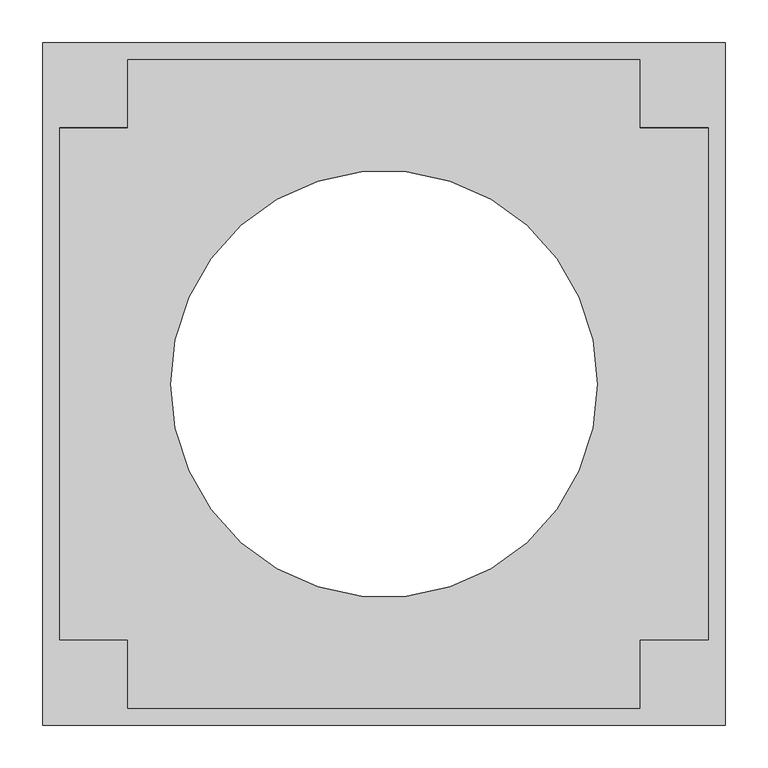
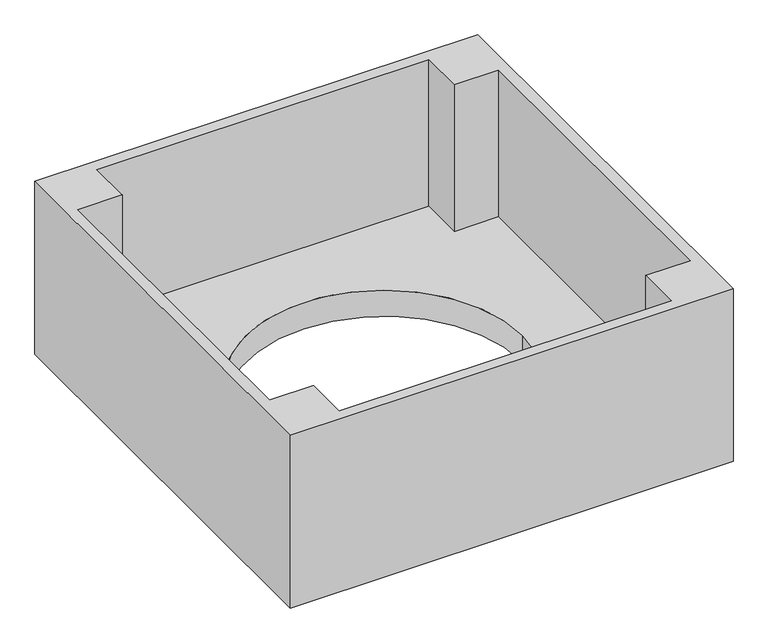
"""IFC4 building model written with IfcOpenShell, lengths in millimetres: proxy geometry, RSK C3 Box : RSK C3 8.3."""

import ifcopenshell
import ifcopenshell.guid

model = None  # the IFC model being written
_history = None  # IfcOwnerHistory: only IFC2X3 demands one
_inside = {}  # id of a spatial element -> (the spatial element, [elements in it])
_under = {}  # id of a project, library or spatial element -> (it, [spatial elements below it])
_declared = {}  # id of a project -> (the project, [libraries it declares])
_typed = {}  # id of a type object -> (the type object, [elements of that type])
_made_of = {}  # id of a material, layer set ... -> (it, [elements and type objects made of it])


def new_model(schema):
    """Start an empty IFC model of exactly this schema.

    Asked for "IFC4X3", IfcOpenShell would pick the latest addendum, in which some entities
    have other attributes; the version numbers below select the first issue.
    IFC2X3 requires an IfcOwnerHistory on every rooted entity: one is made here for all.
    """
    global model, _history
    if schema == "IFC4X3":
        model = ifcopenshell.file(schema_version=(4, 3, 0, 0))
    else:
        model = ifcopenshell.file(schema=schema)
    _inside.clear()
    _under.clear()
    _declared.clear()
    _typed.clear()
    _made_of.clear()
    _history = None
    if model.schema == "IFC2X3":
        org = make("IfcOrganization", Name="unknown")
        user = make(
            "IfcPersonAndOrganization",
            ThePerson=make("IfcPerson", FamilyName="unknown"),
            TheOrganization=org,
        )
        app = make(
            "IfcApplication",
            ApplicationDeveloper=org,
            Version="unknown",
            ApplicationFullName="unknown",
            ApplicationIdentifier="unknown",
        )
        _history = make(
            "IfcOwnerHistory",
            OwningUser=user,
            OwningApplication=app,
            ChangeAction="ADDED",
            CreationDate=0,
        )
    return model


def make(cls, **values):
    """One entity of the class cls with the attributes given. An attribute that is None is left unset."""
    return model.create_entity(
        cls, **{name: value for name, value in values.items() if value is not None}
    )


def rooted(cls, **values):
    """An entity with a GlobalId (a new one), such as an element, a storey or a relation."""
    return make(cls, GlobalId=ifcopenshell.guid.new(), OwnerHistory=_history, **values)


def si_unit(unit_type, name, prefix=None):
    """IfcSIUnit, for example si_unit("LENGTHUNIT", "METRE", prefix="MILLI")."""
    return make("IfcSIUnit", UnitType=unit_type, Prefix=prefix, Name=name)


def assignment(units):
    """IfcUnitAssignment: the units of a project."""
    return None if units is None else make("IfcUnitAssignment", Units=units)


def point(xyz):
    """IfcCartesianPoint."""
    return None if xyz is None else make("IfcCartesianPoint", Coordinates=xyz)


def direction(xyz):
    """IfcDirection."""
    return None if xyz is None else make("IfcDirection", DirectionRatios=xyz)


def frame(location, z_axis=None, x_axis=None):
    """IfcAxis2Placement3D, a coordinate frame: its origin and axes. An axis left out is left unset."""
    return make(
        "IfcAxis2Placement3D",
        Location=point(location),
        Axis=direction(z_axis),
        RefDirection=direction(x_axis),
    )


def origin():
    """The frame at (0, 0, 0) with its axes left unset."""
    return frame((0.0, 0.0, 0.0))


def place(relative_to, where):
    """IfcLocalPlacement: puts the frame where relative to a parent placement (None: the world)."""
    return make(
        "IfcLocalPlacement", PlacementRelTo=relative_to, RelativePlacement=where
    )


def context(
    kind, dimensions, precision=None, world=None, true_north=None, identifier=None
):
    """IfcGeometricRepresentationContext, for example the 3D "Model" context."""
    return make(
        "IfcGeometricRepresentationContext",
        ContextIdentifier=identifier,
        ContextType=kind,
        CoordinateSpaceDimension=dimensions,
        Precision=precision,
        WorldCoordinateSystem=world,
        TrueNorth=true_north,
    )


def project(units=None, contexts=None):
    """IfcProject with its units and contexts."""
    return rooted(
        "IfcProject",
        Name="project",
        RepresentationContexts=contexts,
        UnitsInContext=assignment(units),
    )


def spatial(cls, under=None, at=None, **own):
    """A site, building, storey or space (cls), placed at a placement, below another one or the project."""
    s = rooted(cls, ObjectPlacement=at, **own)
    if under is not None:
        _under.setdefault(under.id(), (under, []))[1].append(s)
    return s


def polyline(points):
    """IfcPolyline through the points."""
    return make("IfcPolyline", Points=[point(p) for p in points])


def circle_curve(where, radius):
    """IfcCircle in the frame where."""
    return make("IfcCircle", Position=where, Radius=radius)


def shape(context_of_items, identifier, shape_type, items):
    """IfcShapeRepresentation: the items that make up one representation, for example the "Body"."""
    return make(
        "IfcShapeRepresentation",
        ContextOfItems=context_of_items,
        RepresentationIdentifier=identifier,
        RepresentationType=shape_type,
        Items=items,
    )


def source(mapping_origin, context_of_items, identifier, shape_type, items):
    """IfcRepresentationMap: a shape defined once, which mapped items show again and again."""
    return make(
        "IfcRepresentationMap",
        MappingOrigin=mapping_origin,
        MappedRepresentation=shape(context_of_items, identifier, shape_type, items),
    )


def transform(
    local_origin,
    x_axis=None,
    y_axis=None,
    z_axis=None,
    scale=None,
    scale2=None,
    scale3=None,
    uniform=True,
):
    """IfcCartesianTransformationOperator3D, or its non-uniform kind. x_axis, y_axis, z_axis: its Axis1, 2, 3."""
    if uniform:
        return make(
            "IfcCartesianTransformationOperator3D",
            Axis1=direction(x_axis),
            Axis2=direction(y_axis),
            LocalOrigin=point(local_origin),
            Scale=scale,
            Axis3=direction(z_axis),
        )
    return make(
        "IfcCartesianTransformationOperator3DnonUniform",
        Axis1=direction(x_axis),
        Axis2=direction(y_axis),
        LocalOrigin=point(local_origin),
        Scale=scale,
        Axis3=direction(z_axis),
        Scale2=scale2,
        Scale3=scale3,
    )


def mapped(mapping_source, mapping_target):
    """IfcMappedItem: shows the shape of a source again, moved by a transform."""
    return make(
        "IfcMappedItem", MappingSource=mapping_source, MappingTarget=mapping_target
    )


def made_of(thing, what):
    """Note that an element or type object is made of a material, layer set ...; save() writes the relation."""
    if what is not None:
        _made_of.setdefault(what.id(), (what, []))[1].append(thing)
    return thing


def element(
    cls,
    number,
    at=None,
    inside=None,
    cuts=None,
    type_object=None,
    material=None,
    context=None,
    identifier="Body",
    shape_type=None,
    held_by="IfcProductDefinitionShape",
    body=None,
    shapes=None,
    **own,
):
    """One element of the class cls, such as IfcWall. Its Tag is "e" and its number.

    at: its placement. inside: the storey or other place that contains it. cuts: it is an
    opening in that element (IfcRelVoidsElement). A single representation is given by context,
    identifier, shape_type and body (its items); several are given by shapes. held_by: the class
    of the entity that holds the representations. save() writes the other relations.
    """
    e = rooted(cls, Tag="e%d" % number, ObjectPlacement=at, **own)
    if body is not None:
        shapes = [shape(context, identifier, shape_type, body)]
    if shapes is not None:
        e.Representation = make(held_by, Representations=shapes)
    if inside is not None:
        _inside.setdefault(inside.id(), (inside, []))[1].append(e)
    if cuts is not None:
        rooted(
            "IfcRelVoidsElement", RelatingBuildingElement=cuts, RelatedOpeningElement=e
        )
    if type_object is not None:
        _typed.setdefault(type_object.id(), (type_object, []))[1].append(e)
    return made_of(e, material)


def aggregate(whole, parts):
    """IfcRelAggregates: a whole, such as a stair, and the parts it consists of."""
    return rooted("IfcRelAggregates", RelatingObject=whole, RelatedObjects=parts)


def save(model, path):
    """Write the relations noted so far, then the file.

    IfcRelAggregates (storeys below a building ...), IfcRelContainedInSpatialStructure (elements
    in a storey), IfcRelDefinesByType, IfcRelAssociatesMaterial and IfcRelDeclares: one each for
    every whole, place, type object, material and project.
    """
    for whole, parts in _under.values():
        aggregate(whole, parts)
    for where, things in _inside.values():
        rooted(
            "IfcRelContainedInSpatialStructure",
            RelatedElements=things,
            RelatingStructure=where,
        )
    for kind, things in _typed.values():
        rooted("IfcRelDefinesByType", RelatedObjects=things, RelatingType=kind)
    for what, things in _made_of.values():
        rooted("IfcRelAssociatesMaterial", RelatedObjects=things, RelatingMaterial=what)
    for by, libraries in _declared.values():
        rooted("IfcRelDeclares", RelatingContext=by, RelatedDefinitions=libraries)
    model.write(path)


def plane_surface(at):
    """IfcPlane: the flat surface through the origin of the frame at, square to its z axis."""
    return make("IfcPlane", Position=at)


def revolved_surface(curve, axis_point, axis_direction):
    """IfcSurfaceOfRevolution: the curve turned about the line through axis_point along axis_direction."""
    return make(
        "IfcSurfaceOfRevolution",
        SweptCurve=make("IfcArbitraryOpenProfileDef", ProfileType="CURVE", Curve=curve),
        AxisPosition=make("IfcAxis1Placement", Location=point(axis_point), Axis=direction(axis_direction)),
    )


def advanced_brep(points, edges, surfaces, faces):
    """IfcAdvancedBrep: a solid bounded by faces that lie on surfaces and meet in shared edges.

    An edge is (start, end): straight between two places in points (the first is 0);
    or (start, end, curve); or (start, end, curve, False) where it runs against its curve.
    A face is (place in surfaces, loops), or (place, loops, False) where it looks against
    its surface's normal. A loop lists edges by number (the first is 1), with a minus sign
    where the edge is run from its end to its start. The first loop is the outer one.
    """
    corners = [point(p) for p in points]
    vertices = [make("IfcVertexPoint", VertexGeometry=c) for c in corners]
    made = []
    for start, end, *more in edges:
        made.append(
            make(
                "IfcEdgeCurve",
                EdgeStart=vertices[start],
                EdgeEnd=vertices[end],
                EdgeGeometry=more[0] if more else make("IfcPolyline", Points=[corners[start], corners[end]]),
                SameSense=more[1] if len(more) > 1 else True,
            )
        )
    hull = []
    for where, loops, *sense in faces:
        bounds = []
        for j, loop in enumerate(loops):
            ring = [make("IfcOrientedEdge", EdgeElement=made[abs(k) - 1], Orientation=k > 0) for k in loop]
            bounds.append(
                make(
                    "IfcFaceOuterBound" if j == 0 else "IfcFaceBound",
                    Bound=make("IfcEdgeLoop", EdgeList=ring),
                    Orientation=True,
                )
            )
        hull.append(make("IfcAdvancedFace", Bounds=bounds, FaceSurface=surfaces[where], SameSense=sense[0] if sense else True))
    return make("IfcAdvancedBrep", Outer=make("IfcClosedShell", CfsFaces=hull))


def generic_models_b55f4b7e(model_context):
    return source(origin(), model_context, "Body", "AdvancedBrep", [
        advanced_brep(
        [(100.0, 100.0, 50.0), (100.0, 20.0, 50.0), (700.0, 20.0, 50.0), (700.0, 100.0, 50.0), (780.0, 100.0, 50.0), (780.0, 700.0, 50.0), (700.0, 700.0, 50.0), (700.0, 780.0, 50.0), (100.0, 780.0, 50.0), (100.0, 700.0, 50.0), (20.0, 700.0, 50.0), (20.0, 100.0, 50.0), (150.0, 400.0, 50.0), (650.0, 400.0, 50.0), (0.0, 0.0, 0.0), (0.0, 800.0, 0.0), (800.0, 800.0, 0.0), (800.0, 0.0, 0.0), (150.0, 400.0, 0.0), (650.0, 400.0, 0.0), (800.0, 0.0, 330.0), (0.0, 0.0, 330.0), (800.0, 800.0, 330.0), (0.0, 800.0, 330.0), (20.0, 100.0, 330.0), (20.0, 700.0, 330.0), (100.0, 700.0, 330.0), (100.0, 780.0, 330.0), (700.0, 780.0, 330.0), (700.0, 700.0, 330.0), (780.0, 700.0, 330.0), (780.0, 100.0, 330.0), (700.0, 100.0, 330.0), (700.0, 20.0, 330.0), (100.0, 20.0, 330.0), (100.0, 100.0, 330.0)],
        [
            (0, 1),
            (1, 2),
            (2, 3),
            (3, 4),
            (4, 5),
            (5, 6),
            (6, 7),
            (7, 8),
            (8, 9),
            (9, 10),
            (10, 11),
            (11, 0),
            (12, 13, circle_curve(frame((400.0, 400.0, 50.0), z_axis=(0.0, 0.0, -1.0), x_axis=(1.0, 0.0, 0.0)), 250.0)),
            (13, 12, circle_curve(frame((400.0, 400.0, 50.0), z_axis=(0.0, 0.0, -1.0), x_axis=(1.0, 0.0, 0.0)), 250.0)),
            (14, 15),
            (15, 16),
            (16, 17),
            (17, 14),
            (18, 19, circle_curve(frame((400.0, 400.0, 0.0), z_axis=(0.0, 0.0, 1.0), x_axis=(1.0, 0.0, 0.0)), 250.0)),
            (19, 18, circle_curve(frame((400.0, 400.0, 0.0), z_axis=(0.0, 0.0, 1.0), x_axis=(1.0, 0.0, 0.0)), 250.0)),
            (17, 20),
            (20, 21),
            (21, 14),
            (16, 22),
            (22, 20),
            (15, 23),
            (23, 22),
            (12, 18),
            (19, 13),
            (21, 23),
            (24, 25),
            (25, 26),
            (26, 27),
            (27, 28),
            (28, 29),
            (29, 30),
            (30, 31),
            (31, 32),
            (32, 33),
            (33, 34),
            (34, 35),
            (35, 24),
            (34, 1),
            (0, 35),
            (11, 24),
            (10, 25),
            (9, 26),
            (8, 27),
            (7, 28),
            (6, 29),
            (5, 30),
            (4, 31),
            (3, 32),
            (2, 33),
        ],
        [
            plane_surface(frame((800.0, 0.0, 50.0), z_axis=(0.0, 0.0, 1.0), x_axis=(1.0, 0.0, 0.0))),
            plane_surface(frame((800.0, 0.0, 0.0), z_axis=(0.0, 0.0, -1.0), x_axis=(-1.0, 0.0, 0.0))),
            plane_surface(frame((0.0, 0.0, 50.0), z_axis=(0.0, -1.0, 0.0), x_axis=(0.0, 0.0, -1.0))),
            plane_surface(frame((800.0, 0.0, 50.0), z_axis=(1.0, 0.0, 0.0), x_axis=(0.0, 0.0, -1.0))),
            plane_surface(frame((800.0, 800.0, 50.0), z_axis=(0.0, 1.0, 0.0), x_axis=(0.0, 0.0, -1.0))),
            revolved_surface(polyline([(650.0, 400.0, 0.0), (650.0, 400.0, 50.0)]), (400.0, 400.0, 0.0), (0.0, 0.0, -1.0)),
            plane_surface(frame((0.0, 800.0, 50.0), z_axis=(-1.0, 0.0, 0.0), x_axis=(0.0, 0.0, -1.0))),
            plane_surface(frame((800.0, 0.0, 330.0), z_axis=(0.0, 0.0, 1.0), x_axis=(0.0, 1.0, 0.0))),
            plane_surface(frame((100.0, 20.0, 330.0), z_axis=(1.0, 0.0, 0.0), x_axis=(0.0, 0.0, -1.0))),
            plane_surface(frame((100.0, 100.0, 330.0), z_axis=(0.0, 1.0, 0.0), x_axis=(0.0, 0.0, -1.0))),
            plane_surface(frame((20.0, 100.0, 330.0), z_axis=(1.0, 0.0, 0.0), x_axis=(0.0, 0.0, -1.0))),
            plane_surface(frame((20.0, 700.0, 330.0), z_axis=(0.0, -1.0, 0.0), x_axis=(0.0, 0.0, -1.0))),
            plane_surface(frame((100.0, 700.0, 330.0), z_axis=(1.0, 0.0, 0.0), x_axis=(0.0, 0.0, -1.0))),
            plane_surface(frame((100.0, 780.0, 330.0), z_axis=(0.0, -1.0, 0.0), x_axis=(0.0, 0.0, -1.0))),
            plane_surface(frame((700.0, 780.0, 330.0), z_axis=(-1.0, 0.0, 0.0), x_axis=(0.0, 0.0, -1.0))),
            plane_surface(frame((700.0, 700.0, 330.0), z_axis=(0.0, -1.0, 0.0), x_axis=(0.0, 0.0, -1.0))),
            plane_surface(frame((780.0, 700.0, 330.0), z_axis=(-1.0, 0.0, 0.0), x_axis=(0.0, 0.0, -1.0))),
            plane_surface(frame((780.0, 100.0, 330.0), z_axis=(0.0, 1.0, 0.0), x_axis=(0.0, 0.0, -1.0))),
            plane_surface(frame((700.0, 100.0, 330.0), z_axis=(-1.0, 0.0, 0.0), x_axis=(0.0, 0.0, -1.0))),
            plane_surface(frame((700.0, 20.0, 330.0), z_axis=(0.0, 1.0, 0.0), x_axis=(0.0, 0.0, -1.0))),
        ],
        [
            (0, [[1, 2, 3, 4, 5, 6, 7, 8, 9, 10, 11, 12], [13, 14]]),
            (1, [[15, 16, 17, 18], [19, 20]]),
            (2, [[-18, 21, 22, 23]]),
            (3, [[-21, -17, 24, 25]]),
            (4, [[-24, -16, 26, 27]]),
            (5, [[-13, 28, -20, 29]]),
            (5, [[-14, -29, -19, -28]]),
            (6, [[-26, -15, -23, 30]]),
            (7, [[-25, -27, -30, -22], [31, 32, 33, 34, 35, 36, 37, 38, 39, 40, 41, 42]]),
            (8, [[-41, 43, -1, 44]]),
            (9, [[-42, -44, -12, 45]]),
            (10, [[-31, -45, -11, 46]]),
            (11, [[-32, -46, -10, 47]]),
            (12, [[-33, -47, -9, 48]]),
            (13, [[-34, -48, -8, 49]]),
            (14, [[-35, -49, -7, 50]]),
            (15, [[-36, -50, -6, 51]]),
            (16, [[-37, -51, -5, 52]]),
            (17, [[-38, -52, -4, 53]]),
            (18, [[-39, -53, -3, 54]]),
            (19, [[-40, -54, -2, -43]]),
        ],
    ),
    ])


if __name__ == "__main__":
    model = new_model("IFC4")
    model_context = context("Model", 3, world=origin())
    ifc_project = project(units=[si_unit("LENGTHUNIT", "METRE", prefix="MILLI")], contexts=[model_context])
    site = spatial("IfcSite", under=ifc_project)
    building = spatial("IfcBuilding", under=site)
    placement = place(None, origin())
    generic_models_shape = generic_models_b55f4b7e(model_context)
    element("IfcBuildingElementProxy", 1, Name="RSK C3 Box : RSK C3 8.3", ObjectType="RSK C3 Box : RSK C3 8.3", at=placement, inside=building, context=model_context, shape_type="MappedRepresentation", body=[
        mapped(generic_models_shape, transform((0.0, 0.0, 0.0), x_axis=(1.0, 0.0, 0.0), y_axis=(0.0, 1.0, 0.0), z_axis=(0.0, 0.0, 1.0))),
    ])
    save(model, "model.ifc")
